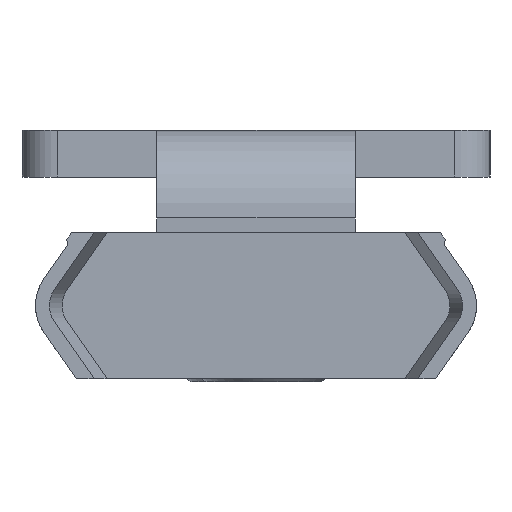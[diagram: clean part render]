
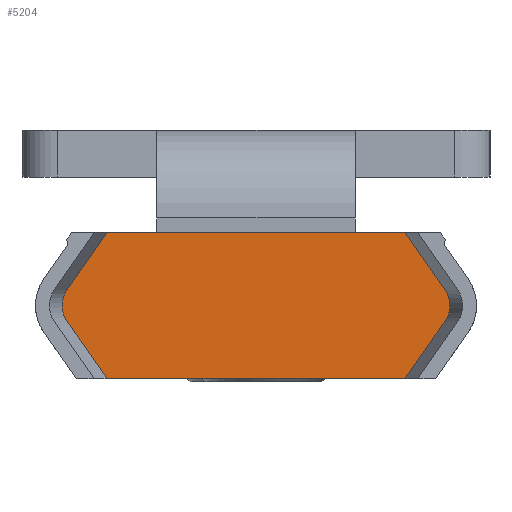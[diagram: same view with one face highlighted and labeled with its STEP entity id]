
A CAD part, left-side view. The second image highlights one B-rep face of the part: STEP entity #5204.
In plain terms, the highlighted planar face has unit normal (-1, 0, 0).
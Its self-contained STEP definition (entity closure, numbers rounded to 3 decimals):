
#125=LINE('',#7210,#343);
#224=LINE('',#7589,#442);
#242=LINE('',#7752,#460);
#243=LINE('',#7756,#461);
#244=LINE('',#7777,#462);
#245=LINE('',#7781,#463);
#343=VECTOR('',#5976,1000.);
#442=VECTOR('',#6219,1000.);
#460=VECTOR('',#6271,1000.);
#461=VECTOR('',#6274,1000.);
#462=VECTOR('',#6275,1000.);
#463=VECTOR('',#6278,1000.);
#580=PLANE('',#5540);
#749=CIRCLE('',#5538,2.391);
#750=CIRCLE('',#5539,2.391);
#1281=ORIENTED_EDGE('',*,*,#2148,.F.);
#1282=ORIENTED_EDGE('',*,*,#2183,.F.);
#1283=ORIENTED_EDGE('',*,*,#2182,.F.);
#1284=ORIENTED_EDGE('',*,*,#2181,.F.);
#1285=ORIENTED_EDGE('',*,*,#1996,.F.);
#1286=ORIENTED_EDGE('',*,*,#2186,.F.);
#1287=ORIENTED_EDGE('',*,*,#2185,.F.);
#1288=ORIENTED_EDGE('',*,*,#2184,.F.);
#1996=EDGE_CURVE('',#2496,#2497,#125,.T.);
#2148=EDGE_CURVE('',#2614,#2607,#224,.T.);
#2181=EDGE_CURVE('',#2497,#2633,#242,.T.);
#2182=EDGE_CURVE('',#2633,#2634,#749,.T.);
#2183=EDGE_CURVE('',#2634,#2614,#243,.T.);
#2184=EDGE_CURVE('',#2607,#2635,#244,.T.);
#2185=EDGE_CURVE('',#2635,#2636,#750,.T.);
#2186=EDGE_CURVE('',#2636,#2496,#245,.T.);
#2496=VERTEX_POINT('',#7209);
#2497=VERTEX_POINT('',#7211);
#2607=VERTEX_POINT('',#7574);
#2614=VERTEX_POINT('',#7588);
#2633=VERTEX_POINT('',#7753);
#2634=VERTEX_POINT('',#7755);
#2635=VERTEX_POINT('',#7778);
#2636=VERTEX_POINT('',#7780);
#2953=EDGE_LOOP('',(#1281,#1282,#1283,#1284,#1285,#1286,#1287,#1288));
#3261=FACE_BOUND('',#2953,.T.);
#5204=ADVANCED_FACE('',(#3261),#580,.F.);
#5538=AXIS2_PLACEMENT_3D('',#7754,#6272,#6273);
#5539=AXIS2_PLACEMENT_3D('',#7779,#6276,#6277);
#5540=AXIS2_PLACEMENT_3D('',#7782,#6279,#6280);
#5976=DIRECTION('',(0.,1.,0.));
#6219=DIRECTION('',(0.,-1.,0.));
#6271=DIRECTION('',(0.,0.574,0.819));
#6272=DIRECTION('',(1.,0.,0.));
#6273=DIRECTION('',(0.,0.,-1.));
#6274=DIRECTION('',(0.,-0.574,0.819));
#6275=DIRECTION('',(0.,-0.574,-0.819));
#6276=DIRECTION('',(1.,0.,0.));
#6277=DIRECTION('',(0.,0.,-1.));
#6278=DIRECTION('',(0.,0.574,-0.819));
#6279=DIRECTION('',(1.,0.,0.));
#6280=DIRECTION('',(0.,0.,-1.));
#7209=CARTESIAN_POINT('',(-77.,-12.72,-17.25));
#7210=CARTESIAN_POINT('',(-77.,-12.72,-17.25));
#7211=CARTESIAN_POINT('',(-77.,12.72,-17.25));
#7574=CARTESIAN_POINT('',(-77.,-12.72,-4.75));
#7588=CARTESIAN_POINT('',(-77.,12.72,-4.75));
#7589=CARTESIAN_POINT('',(-77.,12.72,-4.75));
#7752=CARTESIAN_POINT('',(-77.,12.72,-17.25));
#7753=CARTESIAN_POINT('',(-77.,16.136,-12.371));
#7754=CARTESIAN_POINT('',(-77.,14.177,-11.));
#7755=CARTESIAN_POINT('',(-77.,16.136,-9.629));
#7756=CARTESIAN_POINT('',(-77.,16.136,-9.629));
#7777=CARTESIAN_POINT('',(-77.,-12.72,-4.75));
#7778=CARTESIAN_POINT('',(-77.,-16.136,-9.629));
#7779=CARTESIAN_POINT('',(-77.,-14.177,-11.));
#7780=CARTESIAN_POINT('',(-77.,-16.136,-12.371));
#7781=CARTESIAN_POINT('',(-77.,-16.136,-12.371));
#7782=CARTESIAN_POINT('',(-77.,-14.177,-11.));
